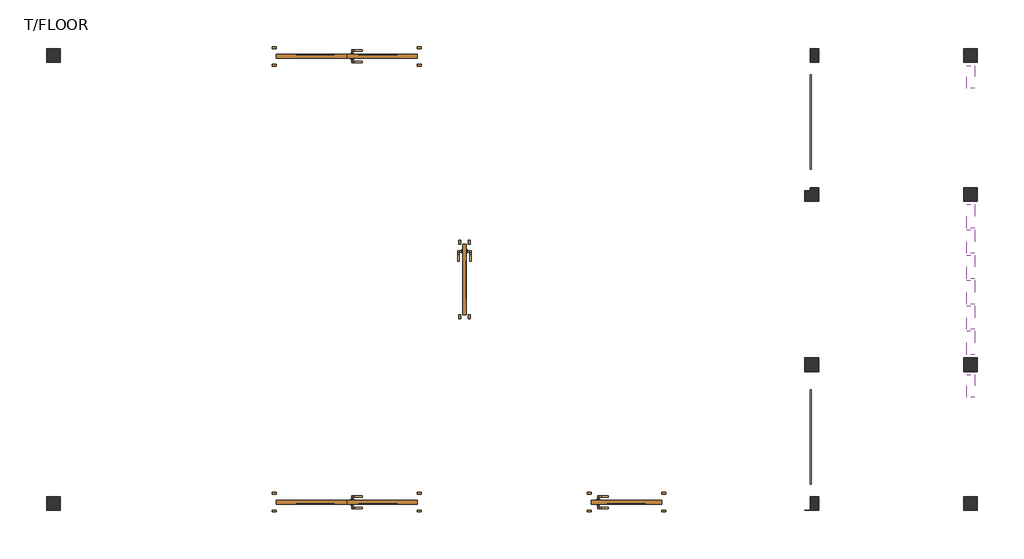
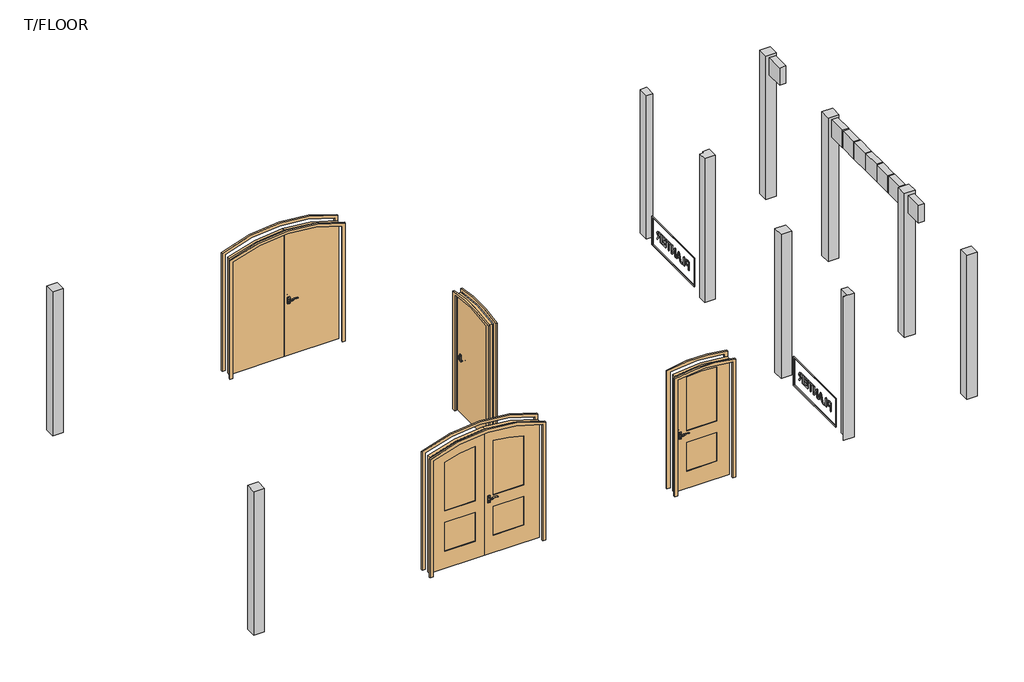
# One storey: 10 columns, 8 plates, 4 doors, 2 proxies, 2 walls.
"""IFC4 building model written with IfcOpenShell, lengths in millimetres."""

from ifc_helpers import new_model, si_unit, frame, origin, origin_with_axes, place, context, project, spatial, polyline, outline, extrude, transform, mapped, element, save
from components import column_175_x_175_mm_2f19bf58, door_101a_c2ac0952, door_101b_d0b27b87, door_103a_7dd64f01, door_104a_b8b2b884, plate_f320fb32, plate_3941e747, wall_0a2ae367, wall_060ecb6b

model = new_model("IFC4")

# Units and contexts
model_context = context("Model", 3, world=origin())
ifc_project = project(units=[si_unit("LENGTHUNIT", "METRE", prefix="MILLI")], contexts=[model_context])

# Site, building, storey
site = spatial("IfcSite", under=ifc_project)
building = spatial("IfcBuilding", under=site)
storey = spatial("IfcBuildingStorey", under=building, Name="T/FLOOR", Elevation=0.0)

# Proxies
placement = place(None, origin())
element("IfcBuildingElementProxy", 1, Name="150 mm Arial", ObjectType="150 mm Arial", at=placement, inside=storey, context=model_context, shape_type="SweptSolid", body=[
    extrude(outline(polyline([(-802.7312953, 185.0743175), (-802.7312953, 332.7666252), (-747.9957184, 332.7666252), (-725.9284107, 331.3603752), (-707.9897088, 324.4553271), (-696.361103, 310.1764809), (-691.9620646, 290.0382598), (-694.932317, 272.6314088), (-703.8430742, 258.1272021), (-720.5062352, 248.3375386), (-746.7336992, 245.0743175), (-784.2697569, 245.0743175), (-784.2697569, 185.0743175), (-802.7312953, 185.0743175)]), holes=[polyline([(-784.2697569, 263.5358559), (-745.6519684, 263.5358559), (-729.2817761, 265.2305675), (-718.4644684, 270.3147021), (-712.4338194, 278.472755), (-710.423603, 289.3892213), (-715.1651896, 304.6776828), (-727.6231223, 313.0430675), (-746.0846607, 314.3050867), (-784.2697569, 314.3050867), (-784.2697569, 263.5358559)])]), frame((3009.1580578, 0.0, 0.0), z_axis=(1.0, 0.0, 0.0), x_axis=(0.0, 1.0, 0.0)), (0.0, 0.0, 1.0), 10.0),
    extrude(outline(polyline([(-666.5774492, 185.0743175), (-666.5774492, 332.7666252), (-648.1159107, 332.7666252), (-648.1159107, 203.5358559), (-574.2697569, 203.5358559), (-574.2697569, 185.0743175), (-666.5774492, 185.0743175)])), frame((3009.1580578, 0.0, 0.0), z_axis=(1.0, 0.0, 0.0), x_axis=(0.0, 1.0, 0.0)), (0.0, 0.0, 1.0), 10.0),
    extrude(outline(polyline([(-570.7000453, 185.0743175), (-511.7457184, 332.7666252), (-496.0245646, 332.7666252), (-437.0702376, 185.0743175), (-456.5774492, 185.0743175), (-473.4885069, 231.2281636), (-534.3178338, 231.2281636), (-551.1928338, 185.0743175), (-570.7000453, 185.0743175)]), holes=[polyline([(-527.5389876, 249.6897021), (-480.2312953, 249.6897021), (-493.5365838, 285.9997982), (-503.8851415, 314.3050867), (-513.079853, 289.1728752), (-527.5389876, 249.6897021)])]), frame((3009.1580578, 0.0, 0.0), z_axis=(1.0, 0.0, 0.0), x_axis=(0.0, 1.0, 0.0)), (0.0, 0.0, 1.0), 10.0),
    extrude(outline(polyline([(-417.34668, 185.0743175), (-417.34668, 332.7666252), (-397.5870646, 332.7666252), (-320.423603, 215.7594136), (-320.423603, 332.7666252), (-301.9620646, 332.7666252), (-301.9620646, 185.0743175), (-321.72168, 185.0743175), (-398.8851415, 302.1175867), (-398.8851415, 185.0743175), (-417.34668, 185.0743175)])), frame((3009.1580578, 0.0, 0.0), z_axis=(1.0, 0.0, 0.0), x_axis=(0.0, 1.0, 0.0)), (0.0, 0.0, 1.0), 10.0),
    extrude(outline(polyline([(-232.7312953, 185.0743175), (-232.7312953, 314.3050867), (-281.1928338, 314.3050867), (-281.1928338, 332.7666252), (-165.8082184, 332.7666252), (-165.8082184, 314.3050867), (-214.2697569, 314.3050867), (-214.2697569, 185.0743175), (-232.7312953, 185.0743175)])), frame((3009.1580578, 0.0, 0.0), z_axis=(1.0, 0.0, 0.0), x_axis=(0.0, 1.0, 0.0)), (0.0, 0.0, 1.0), 10.0),
    extrude(outline(polyline([(-145.0389876, 185.0743175), (-145.0389876, 332.7666252), (-38.8851415, 332.7666252), (-38.8851415, 314.3050867), (-126.5774492, 314.3050867), (-126.5774492, 270.4589328), (-43.5005261, 270.4589328), (-43.5005261, 251.9973944), (-126.5774492, 251.9973944), (-126.5774492, 203.5358559), (-36.5774492, 203.5358559), (-36.5774492, 185.0743175), (-145.0389876, 185.0743175)])), frame((3009.1580578, 0.0, 0.0), z_axis=(1.0, 0.0, 0.0), x_axis=(0.0, 1.0, 0.0)), (0.0, 0.0, 1.0), 10.0),
    extrude(outline(polyline([(-8.8851415, 185.0743175), (-8.8851415, 332.7666252), (54.7566854, 332.7666252), (84.3059643, 328.7822502), (93.4015172, 323.2654232), (100.4598104, 314.6836925), (104.989558, 304.042166), (106.4994739, 292.3459521), (103.9979715, 277.7966732), (96.4934643, 265.7353752), (83.7605917, 256.8922261), (65.5739931, 251.9973944), (76.0667816, 244.1007598), (91.0307239, 225.0983559), (115.6581277, 185.0743175), (94.2038008, 185.0743175), (74.9850508, 215.6872982), (61.1028393, 235.9517213), (51.3492335, 245.5250386), (42.5691854, 249.0406636), (31.8600508, 249.6897021), (9.576397, 249.6897021), (9.576397, 185.0743175), (-8.8851415, 185.0743175)]), holes=[polyline([(9.576397, 268.1512405), (50.8985124, 268.1512405), (71.9742335, 270.7654232), (83.9453874, 279.1308078), (88.0379354, 291.6608559), (86.0863128, 300.6662646), (80.231445, 307.9228752), (70.1578273, 312.7095338), (55.5499547, 314.3050867), (9.576397, 314.3050867), (9.576397, 268.1512405)])]), frame((3009.1580578, 0.0, 0.0), z_axis=(1.0, 0.0, 0.0), x_axis=(0.0, 1.0, 0.0)), (0.0, 0.0, 1.0), 10.0),
])
element("IfcBuildingElementProxy", 2, Name="150 mm Arial", ObjectType="150 mm Arial", at=placement, inside=storey, context=model_context, shape_type="SweptSolid", body=[
    extrude(outline(polyline([(3241.5337761, 185.0743175), (3241.5337761, 332.7666252), (3296.2693531, 332.7666252), (3318.3366607, 331.3603752), (3336.2753627, 324.4553271), (3347.9039684, 310.1764809), (3352.3030069, 290.0382598), (3349.3327545, 272.6314088), (3340.4219973, 258.1272021), (3323.7588362, 248.3375386), (3297.5313723, 245.0743175), (3259.9953146, 245.0743175), (3259.9953146, 185.0743175), (3241.5337761, 185.0743175)]), holes=[polyline([(3259.9953146, 263.5358559), (3298.6131031, 263.5358559), (3314.9832954, 265.2305675), (3325.8006031, 270.3147021), (3331.8312521, 278.472755), (3333.8414684, 289.3892213), (3329.0998819, 304.6776828), (3316.6419492, 313.0430675), (3298.1804107, 314.3050867), (3259.9953146, 314.3050867), (3259.9953146, 263.5358559)])]), frame((3009.1580578, 0.0, 0.0), z_axis=(1.0, 0.0, 0.0), x_axis=(0.0, 1.0, 0.0)), (0.0, 0.0, 1.0), 10.0),
    extrude(outline(polyline([(3377.6876223, 185.0743175), (3377.6876223, 332.7666252), (3396.1491607, 332.7666252), (3396.1491607, 203.5358559), (3469.9953146, 203.5358559), (3469.9953146, 185.0743175), (3377.6876223, 185.0743175)])), frame((3009.1580578, 0.0, 0.0), z_axis=(1.0, 0.0, 0.0), x_axis=(0.0, 1.0, 0.0)), (0.0, 0.0, 1.0), 10.0),
    extrude(outline(polyline([(3473.5650261, 185.0743175), (3532.5193531, 332.7666252), (3548.2405069, 332.7666252), (3607.1948338, 185.0743175), (3587.6876223, 185.0743175), (3570.7765646, 231.2281636), (3509.9472377, 231.2281636), (3493.0722377, 185.0743175), (3473.5650261, 185.0743175)]), holes=[polyline([(3516.7260838, 249.6897021), (3564.0337761, 249.6897021), (3550.7284877, 285.9997982), (3540.37993, 314.3050867), (3531.1852184, 289.1728752), (3516.7260838, 249.6897021)])]), frame((3009.1580578, 0.0, 0.0), z_axis=(1.0, 0.0, 0.0), x_axis=(0.0, 1.0, 0.0)), (0.0, 0.0, 1.0), 10.0),
    extrude(outline(polyline([(3626.9183915, 185.0743175), (3626.9183915, 332.7666252), (3646.6780069, 332.7666252), (3723.8414684, 215.7594136), (3723.8414684, 332.7666252), (3742.3030069, 332.7666252), (3742.3030069, 185.0743175), (3722.5433915, 185.0743175), (3645.37993, 302.1175867), (3645.37993, 185.0743175), (3626.9183915, 185.0743175)])), frame((3009.1580578, 0.0, 0.0), z_axis=(1.0, 0.0, 0.0), x_axis=(0.0, 1.0, 0.0)), (0.0, 0.0, 1.0), 10.0),
    extrude(outline(polyline([(3811.5337761, 185.0743175), (3811.5337761, 314.3050867), (3763.0722377, 314.3050867), (3763.0722377, 332.7666252), (3878.4568531, 332.7666252), (3878.4568531, 314.3050867), (3829.9953146, 314.3050867), (3829.9953146, 185.0743175), (3811.5337761, 185.0743175)])), frame((3009.1580578, 0.0, 0.0), z_axis=(1.0, 0.0, 0.0), x_axis=(0.0, 1.0, 0.0)), (0.0, 0.0, 1.0), 10.0),
    extrude(outline(polyline([(3899.2260838, 185.0743175), (3899.2260838, 332.7666252), (4005.37993, 332.7666252), (4005.37993, 314.3050867), (3917.6876223, 314.3050867), (3917.6876223, 270.4589328), (4000.7645454, 270.4589328), (4000.7645454, 251.9973944), (3917.6876223, 251.9973944), (3917.6876223, 203.5358559), (4007.6876223, 203.5358559), (4007.6876223, 185.0743175), (3899.2260838, 185.0743175)])), frame((3009.1580578, 0.0, 0.0), z_axis=(1.0, 0.0, 0.0), x_axis=(0.0, 1.0, 0.0)), (0.0, 0.0, 1.0), 10.0),
    extrude(outline(polyline([(4035.37993, 185.0743175), (4035.37993, 332.7666252), (4099.0217569, 332.7666252), (4128.5710357, 328.7822502), (4137.6665886, 323.2654232), (4144.7248819, 314.6836925), (4149.2546295, 304.042166), (4150.7645454, 292.3459521), (4148.263043, 277.7966732), (4140.7585357, 265.7353752), (4128.0256631, 256.8922261), (4109.8390646, 251.9973944), (4120.3318531, 244.1007598), (4135.2957954, 225.0983559), (4159.9231992, 185.0743175), (4138.4688723, 185.0743175), (4119.2501223, 215.6872982), (4105.3679107, 235.9517213), (4095.614305, 245.5250386), (4086.8342569, 249.0406636), (4076.1251223, 249.6897021), (4053.8414684, 249.6897021), (4053.8414684, 185.0743175), (4035.37993, 185.0743175)]), holes=[polyline([(4053.8414684, 268.1512405), (4095.1635838, 268.1512405), (4116.239305, 270.7654232), (4128.2104588, 279.1308078), (4132.3030069, 291.6608559), (4130.3513843, 300.6662646), (4124.4965165, 307.9228752), (4114.4228987, 312.7095338), (4099.8150261, 314.3050867), (4053.8414684, 314.3050867), (4053.8414684, 268.1512405)])]), frame((3009.1580578, 0.0, 0.0), z_axis=(1.0, 0.0, 0.0), x_axis=(0.0, 1.0, 0.0)), (0.0, 0.0, 1.0), 10.0),
])

# Columns
element("IfcColumn", 3, ObjectType="矩形柱 : 175 x 175 mm", at=placement, inside=storey, context=model_context, shape_type="SweptSolid", body=[
    extrude(outline(polyline([(3116.6580578, -1101.483375), (3116.6580578, -1276.483375), (2941.6580578, -1276.483375), (2941.6580578, -1271.983375), (3009.1580578, -1271.983375), (3009.1580578, -1101.483375), (3116.6580578, -1101.483375)])), origin_with_axes(), (0.0, 0.0, 1.0), 2500.0),
])
element("IfcColumn", 4, ObjectType="矩形柱 : 175 x 175 mm", at=placement, inside=storey, context=model_context, shape_type="SweptSolid", body=[
    extrude(outline(polyline([(3116.6580578, 2849.516625), (3116.6580578, 2674.516625), (2941.6580578, 2674.516625), (2941.6580578, 2812.016625), (3009.1580578, 2812.016625), (3009.1580578, 2849.516625), (3116.6580578, 2849.516625)])), origin_with_axes(), (0.0, 0.0, 1.0), 2500.0),
])
element("IfcColumn", 5, ObjectType="矩形柱 : 175 x 175 mm", at=placement, inside=storey, context=model_context, shape_type="SweptSolid", body=[
    extrude(outline(polyline([(3116.6580578, 4624.516625), (3116.6580578, 4449.516625), (3009.1580578, 4449.516625), (3009.1580578, 4624.516625), (3116.6580578, 4624.516625)])), origin_with_axes(), (0.0, 0.0, 1.0), 2500.0),
])
element("IfcColumn", 6, ObjectType="矩形柱 : 175 x 175 mm", at=placement, inside=storey, context=model_context, shape_type="SweptSolid", body=[
    extrude(outline(polyline([(-6579.3419422, -1101.483375), (-6579.3419422, -1276.483375), (-6754.3419422, -1276.483375), (-6754.3419422, -1101.483375), (-6579.3419422, -1101.483375)])), origin_with_axes(), (0.0, 0.0, 1.0), 2500.0),
])
element("IfcColumn", 7, ObjectType="矩形柱 : 175 x 175 mm", at=placement, inside=storey, context=model_context, shape_type="SweptSolid", body=[
    extrude(outline(polyline([(-6579.3419422, 4624.516625), (-6579.3419422, 4449.516625), (-6754.3419422, 4449.516625), (-6754.3419422, 4624.516625), (-6579.3419422, 4624.516625)])), origin_with_axes(), (0.0, 0.0, 1.0), 2500.0),
])
column_175_x_175_mm_shape = column_175_x_175_mm_2f19bf58(model_context)
element("IfcColumn", 8, ObjectType="矩形柱 : 175 x 175 mm", at=placement, inside=storey, context=model_context, shape_type="MappedRepresentation", body=[
    mapped(column_175_x_175_mm_shape, transform((5059.1580578, -1188.983375, 0.0), x_axis=(1.0, 0.0, 0.0), y_axis=(0.0, 1.0, 0.0), z_axis=(0.0, 0.0, 1.0))),
])
element("IfcColumn", 9, ObjectType="矩形柱 : 175 x 175 mm", at=placement, inside=storey, context=model_context, shape_type="MappedRepresentation", body=[
    mapped(column_175_x_175_mm_shape, transform((5059.1580578, 586.016625, 0.0), x_axis=(1.0, 0.0, 0.0), y_axis=(0.0, 1.0, 0.0), z_axis=(0.0, 0.0, 1.0))),
])
element("IfcColumn", 10, ObjectType="矩形柱 : 175 x 175 mm", at=placement, inside=storey, context=model_context, shape_type="MappedRepresentation", body=[
    mapped(column_175_x_175_mm_shape, transform((5059.1580578, 2762.016625, 0.0), x_axis=(1.0, 0.0, 0.0), y_axis=(0.0, 1.0, 0.0), z_axis=(0.0, 0.0, 1.0))),
])
element("IfcColumn", 11, ObjectType="矩形柱 : 175 x 175 mm", at=placement, inside=storey, context=model_context, shape_type="MappedRepresentation", body=[
    mapped(column_175_x_175_mm_shape, transform((5059.1580578, 4537.016625, 0.0), x_axis=(1.0, 0.0, 0.0), y_axis=(0.0, 1.0, 0.0), z_axis=(0.0, 0.0, 1.0))),
])
element("IfcColumn", 12, ObjectType="矩形柱 : 175 x 175 mm", at=placement, inside=storey, context=model_context, shape_type="MappedRepresentation", body=[
    mapped(column_175_x_175_mm_shape, transform((3029.1580578, 586.016625, 0.0), x_axis=(1.0, 0.0, 0.0), y_axis=(0.0, 1.0, 0.0), z_axis=(0.0, 0.0, 1.0))),
])

# Doors
door_101a_shape = door_101a_c2ac0952(model_context)
element("IfcDoor", 13, ObjectType="单开门 : 101A", at=placement, inside=storey, context=model_context, shape_type="MappedRepresentation", body=[
    mapped(door_101a_shape, transform((659.1580578, -1171.983375, 0.0), x_axis=(-1.0, 0.0, 0.0), y_axis=(0.0, -1.0, 0.0), z_axis=(0.0, 0.0, 1.0))),
])
door_101b_shape = door_101b_d0b27b87(model_context)
element("IfcDoor", 14, ObjectType="单开门 : 101B", at=placement, inside=storey, context=model_context, shape_type="MappedRepresentation", body=[
    mapped(door_101b_shape, transform((-1410.8419422, 1674.016625, 0.0), x_axis=(0.0, 1.0, 0.0), y_axis=(-1.0, 0.0, 0.0), z_axis=(0.0, 0.0, 1.0))),
])
door_103a_shape = door_103a_7dd64f01(model_context)
element("IfcDoor", 15, ObjectType="双开门(恢复) : 103A", at=placement, inside=storey, context=model_context, shape_type="MappedRepresentation", body=[
    mapped(door_103a_shape, transform((-2916.8419422, 4528.016625, 0.0), x_axis=(-1.0, 0.0, 0.0), y_axis=(0.0, -1.0, 0.0), z_axis=(0.0, 0.0, 1.0))),
])
door_104a_shape = door_104a_b8b2b884(model_context)
element("IfcDoor", 16, ObjectType="双开门(恢复) : 104A", at=placement, inside=storey, context=model_context, shape_type="MappedRepresentation", body=[
    mapped(door_104a_shape, transform((-2916.8419422, -1171.983375, 0.0), x_axis=(-1.0, 0.0, 0.0), y_axis=(0.0, -1.0, 0.0), z_axis=(0.0, 0.0, 1.0))),
])

# Plates
plate_shape = plate_f320fb32(model_context)
element("IfcPlate", 17, ObjectType="空系统嵌板 : 空", at=placement, inside=storey, context=model_context, shape_type="MappedRepresentation", body=[
    mapped(plate_shape, transform((5059.1580578, 314.516625, 2180.0), x_axis=(0.0, -1.0, 0.0), y_axis=(1.0, 0.0, 0.0), z_axis=(0.0, 0.0, 1.0))),
])
element("IfcPlate", 18, ObjectType="空系统嵌板 : 空", at=placement, inside=storey, context=model_context, shape_type="MappedRepresentation", body=[
    mapped(plate_shape, transform((5059.1580578, 4265.516625, 2180.0), x_axis=(0.0, -1.0, 0.0), y_axis=(1.0, 0.0, 0.0), z_axis=(0.0, 0.0, 1.0))),
])
plate_2_shape = plate_3941e747(model_context)
element("IfcPlate", 19, ObjectType="空系统嵌板 : 空", at=placement, inside=storey, context=model_context, shape_type="MappedRepresentation", body=[
    mapped(plate_2_shape, transform((5059.1580578, 2482.766625, 2180.0), x_axis=(0.0, -1.0, 0.0), y_axis=(1.0, 0.0, 0.0), z_axis=(0.0, 0.0, 1.0))),
])
element("IfcPlate", 20, ObjectType="空系统嵌板 : 空", at=placement, inside=storey, context=model_context, shape_type="MappedRepresentation", body=[
    mapped(plate_2_shape, transform((5059.1580578, 2159.266625, 2180.0), x_axis=(0.0, -1.0, 0.0), y_axis=(1.0, 0.0, 0.0), z_axis=(0.0, 0.0, 1.0))),
])
element("IfcPlate", 21, ObjectType="空系统嵌板 : 空", at=placement, inside=storey, context=model_context, shape_type="MappedRepresentation", body=[
    mapped(plate_2_shape, transform((5059.1580578, 1835.766625, 2180.0), x_axis=(0.0, -1.0, 0.0), y_axis=(1.0, 0.0, 0.0), z_axis=(0.0, 0.0, 1.0))),
])
element("IfcPlate", 22, ObjectType="空系统嵌板 : 空", at=placement, inside=storey, context=model_context, shape_type="MappedRepresentation", body=[
    mapped(plate_2_shape, transform((5059.1580578, 1512.266625, 2180.0), x_axis=(0.0, -1.0, 0.0), y_axis=(1.0, 0.0, 0.0), z_axis=(0.0, 0.0, 1.0))),
])
element("IfcPlate", 23, ObjectType="空系统嵌板 : 空", at=placement, inside=storey, context=model_context, shape_type="MappedRepresentation", body=[
    mapped(plate_2_shape, transform((5059.1580578, 1188.766625, 2180.0), x_axis=(0.0, -1.0, 0.0), y_axis=(1.0, 0.0, 0.0), z_axis=(0.0, 0.0, 1.0))),
])
element("IfcPlate", 24, ObjectType="空系统嵌板 : 空", at=placement, inside=storey, context=model_context, shape_type="MappedRepresentation", body=[
    mapped(plate_2_shape, transform((5059.1580578, 865.266625, 2180.0), x_axis=(0.0, -1.0, 0.0), y_axis=(1.0, 0.0, 0.0), z_axis=(0.0, 0.0, 1.0))),
])

# Walls
wall_shape = wall_0a2ae367(model_context)
element("IfcWall", 25, ObjectType="字框 : 字框", at=placement, inside=storey, context=model_context, shape_type="MappedRepresentation", body=[
    mapped(wall_shape, transform((0.0, 0.0, 0.0), x_axis=(1.0, 0.0, 0.0), y_axis=(0.0, 1.0, 0.0), z_axis=(0.0, 0.0, 1.0))),
])
wall_2_shape = wall_060ecb6b(model_context)
element("IfcWall", 26, ObjectType="字框1 : 字框", at=placement, inside=storey, context=model_context, shape_type="MappedRepresentation", body=[
    mapped(wall_2_shape, transform((0.0, 0.0, 0.0), x_axis=(1.0, 0.0, 0.0), y_axis=(0.0, 1.0, 0.0), z_axis=(0.0, 0.0, 1.0))),
])

save(model, "model.ifc")
